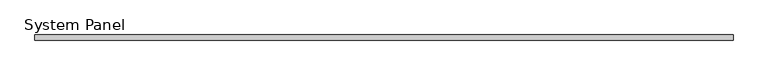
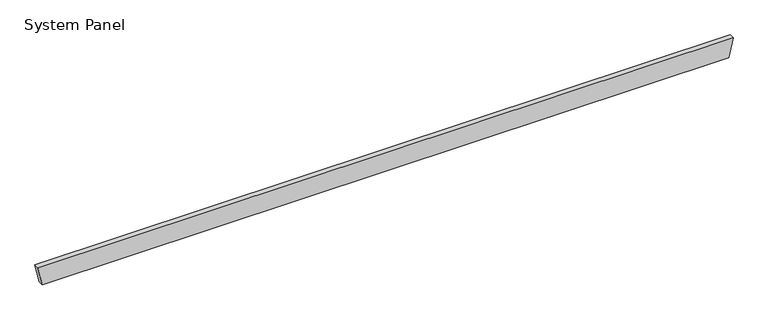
"""IFC4 building model written with IfcOpenShell, lengths in millimetres: plate geometry, System Panel : MetecnoPanel_100mm_Plain_Surfmist."""

from ifc_helpers import new_model, si_unit, frame, origin, place, context, project, spatial, polyline, outline, extrude, source, transform, mapped, element, save


def system_panel_d9a83c33(model_context):
    return source(origin(), model_context, "Body", "SweptSolid", [
        extrude(outline(polyline([(0.0, -6717.3970701), (0.0, 6717.3970701), (379.9704237, 6800.0), (379.9704237, -6800.0), (0.0, -6717.3970701)])), frame((0.0, -100.0, 0.0), z_axis=(0.0, 1.0, 0.0), x_axis=(0.0, 0.0, 1.0)), (0.0, 0.0, 1.0), 100.0),
    ])


if __name__ == "__main__":
    model = new_model("IFC4")
    model_context = context("Model", 3, world=origin())
    ifc_project = project(units=[si_unit("LENGTHUNIT", "METRE", prefix="MILLI")], contexts=[model_context])
    site = spatial("IfcSite", under=ifc_project)
    building = spatial("IfcBuilding", under=site)
    placement = place(None, origin())
    system_panel_shape = system_panel_d9a83c33(model_context)
    element("IfcPlate", 1, ObjectType="System Panel : MetecnoPanel_100mm_Plain_Surfmist", at=placement, inside=building, context=model_context, shape_type="MappedRepresentation", body=[
        mapped(system_panel_shape, transform((0.0, 0.0, 0.0), x_axis=(1.0, 0.0, 0.0), y_axis=(0.0, 1.0, 0.0), z_axis=(0.0, 0.0, 1.0))),
    ])
    save(model, "model.ifc")
